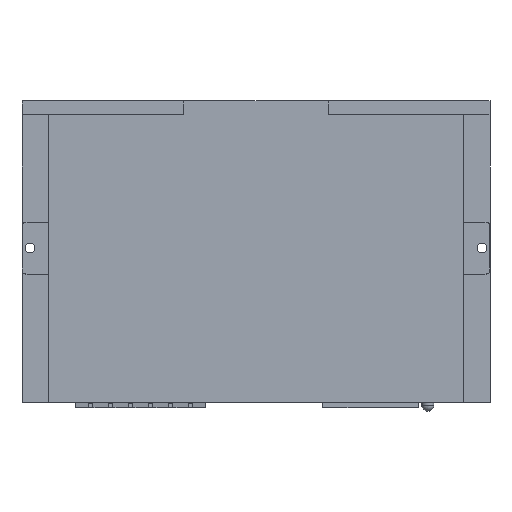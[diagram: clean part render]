
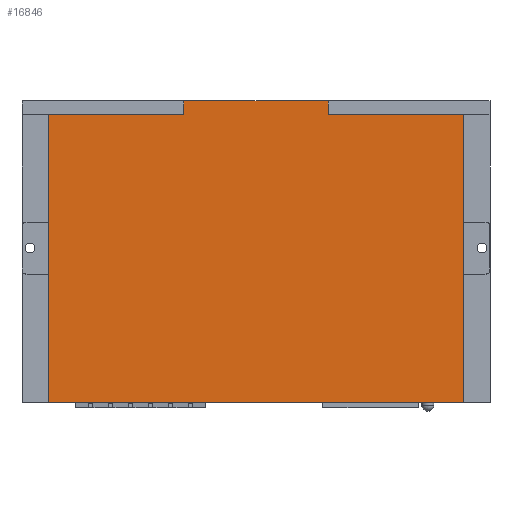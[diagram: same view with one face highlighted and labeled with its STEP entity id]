
A CAD part, top view. The second image highlights one B-rep face of the part: STEP entity #16846.
In plain terms, the highlighted planar face has unit normal (0, 0, 1).
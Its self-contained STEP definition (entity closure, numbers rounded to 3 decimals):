
#1176=ORIENTED_EDGE('',*,*,#4461,.F.);
#1177=ORIENTED_EDGE('',*,*,#4460,.F.);
#1178=ORIENTED_EDGE('',*,*,#4402,.T.);
#1179=ORIENTED_EDGE('',*,*,#4409,.T.);
#1180=ORIENTED_EDGE('',*,*,#4462,.F.);
#1181=ORIENTED_EDGE('',*,*,#4463,.F.);
#1182=ORIENTED_EDGE('',*,*,#4464,.F.);
#1183=ORIENTED_EDGE('',*,*,#4412,.T.);
#4402=EDGE_CURVE('',#6111,#6110,#7349,.T.);
#4409=EDGE_CURVE('',#6110,#6116,#7356,.T.);
#4412=EDGE_CURVE('',#6120,#6119,#7359,.T.);
#4460=EDGE_CURVE('',#6111,#6162,#7401,.T.);
#4461=EDGE_CURVE('',#6162,#6119,#7402,.T.);
#4462=EDGE_CURVE('',#6163,#6116,#7403,.T.);
#4463=EDGE_CURVE('',#6164,#6163,#7404,.T.);
#4464=EDGE_CURVE('',#6120,#6164,#7405,.T.);
#6110=VERTEX_POINT('',#22501);
#6111=VERTEX_POINT('',#22503);
#6116=VERTEX_POINT('',#22515);
#6119=VERTEX_POINT('',#22522);
#6120=VERTEX_POINT('',#22524);
#6162=VERTEX_POINT('',#22617);
#6163=VERTEX_POINT('',#22622);
#6164=VERTEX_POINT('',#22624);
#7349=LINE('',#22502,#8950);
#7356=LINE('',#22516,#8957);
#7359=LINE('',#22523,#8960);
#7401=LINE('',#22618,#9002);
#7402=LINE('',#22620,#9003);
#7403=LINE('',#22621,#9004);
#7404=LINE('',#22623,#9005);
#7405=LINE('',#22625,#9006);
#8950=VECTOR('',#19031,1000.);
#8957=VECTOR('',#19040,1000.);
#8960=VECTOR('',#19045,1000.);
#9002=VECTOR('',#19107,1000.);
#9003=VECTOR('',#19110,1000.);
#9004=VECTOR('',#19111,1000.);
#9005=VECTOR('',#19112,1000.);
#9006=VECTOR('',#19113,1000.);
#10410=EDGE_LOOP('',(#1176,#1177,#1178,#1179,#1180,#1181,#1182,#1183));
#11159=FACE_BOUND('',#10410,.T.);
#11854=PLANE('',#17643);
#16846=ADVANCED_FACE('',(#11159),#11854,.T.);
#17643=AXIS2_PLACEMENT_3D('',#22619,#19108,#19109);
#19031=DIRECTION('',(0.,1.,0.));
#19040=DIRECTION('',(-1.,0.,0.));
#19045=DIRECTION('',(-1.,0.,0.));
#19107=DIRECTION('',(-1.,0.,0.));
#19108=DIRECTION('',(0.,0.,1.));
#19109=DIRECTION('',(0.,-1.,0.));
#19110=DIRECTION('',(0.,1.,0.));
#19111=DIRECTION('',(0.,-1.,0.));
#19112=DIRECTION('',(1.,0.,0.));
#19113=DIRECTION('',(0.,1.,0.));
#22501=CARTESIAN_POINT('',(103.7,0.,21.1));
#22502=CARTESIAN_POINT('',(103.7,-72.,21.1));
#22503=CARTESIAN_POINT('',(103.7,-72.,21.1));
#22515=CARTESIAN_POINT('',(70.,0.,21.1));
#22516=CARTESIAN_POINT('',(103.7,0.,21.1));
#22522=CARTESIAN_POINT('',(0.,0.,21.1));
#22523=CARTESIAN_POINT('',(103.7,0.,21.1));
#22524=CARTESIAN_POINT('',(33.7,0.,21.1));
#22617=CARTESIAN_POINT('',(0.,-72.,21.1));
#22618=CARTESIAN_POINT('',(103.7,-72.,21.1));
#22619=CARTESIAN_POINT('',(103.7,-72.,21.1));
#22620=CARTESIAN_POINT('',(0.,-72.,21.1));
#22621=CARTESIAN_POINT('',(70.,3.5,21.1));
#22622=CARTESIAN_POINT('',(70.,3.5,21.1));
#22623=CARTESIAN_POINT('',(51.85,3.5,21.1));
#22624=CARTESIAN_POINT('',(33.7,3.5,21.1));
#22625=CARTESIAN_POINT('',(33.7,0.,21.1));
